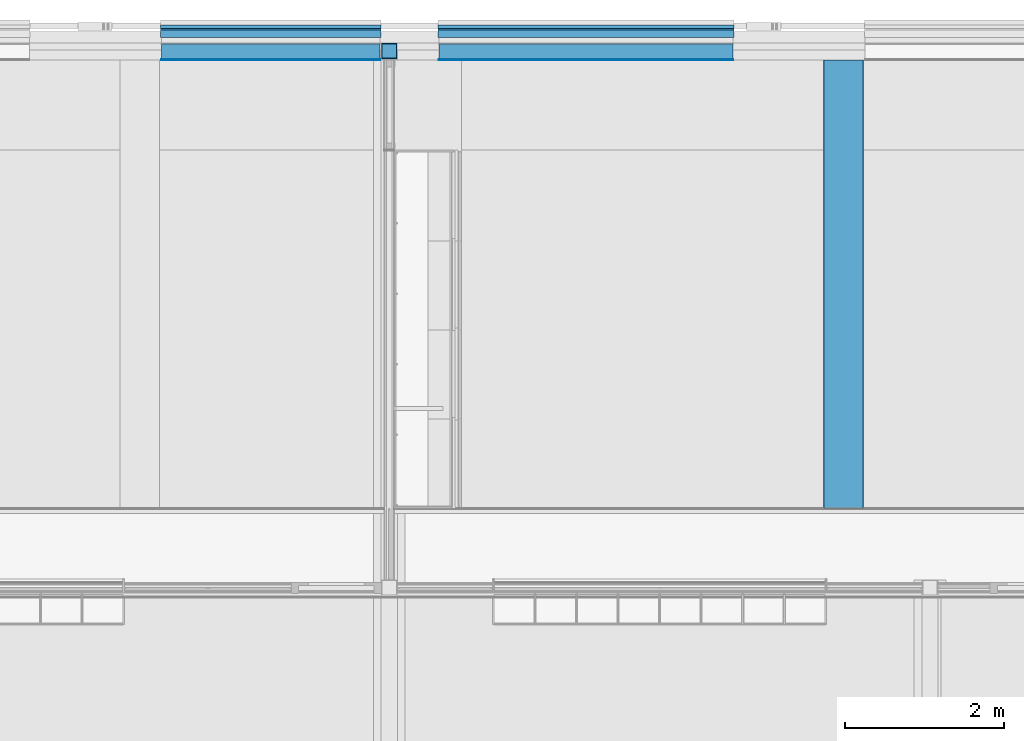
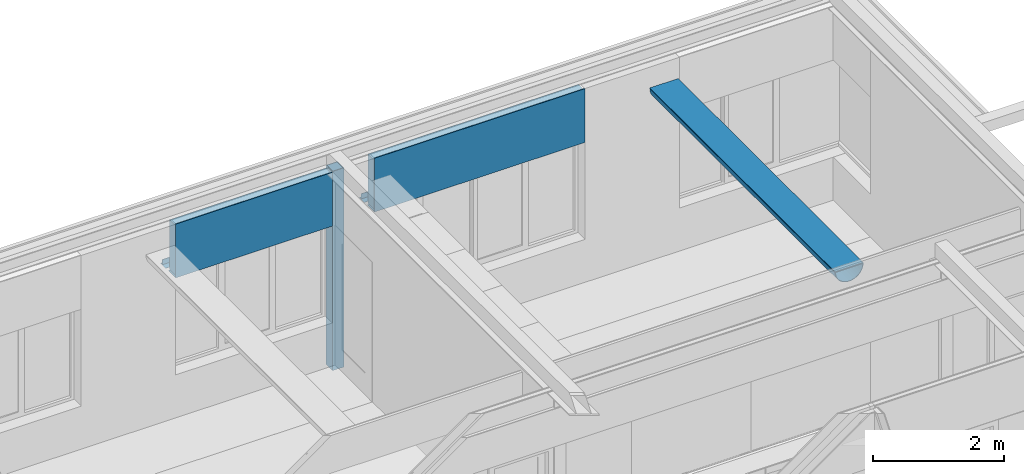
# One storey, part 94 of 137: 14 building element parts, 6 elements without a shape of their own.
"""IFC2X3 building model written with IfcOpenShell, lengths in millimetres."""

import ifcopenshell
import ifcopenshell.guid

model = None  # the IFC model being written
_history = None  # IfcOwnerHistory: only IFC2X3 demands one
_inside = {}  # id of a spatial element -> (the spatial element, [elements in it])
_under = {}  # id of a project, library or spatial element -> (it, [spatial elements below it])
_declared = {}  # id of a project -> (the project, [libraries it declares])
_typed = {}  # id of a type object -> (the type object, [elements of that type])
_made_of = {}  # id of a material, layer set ... -> (it, [elements and type objects made of it])


def new_model(schema):
    """Start an empty IFC model of exactly this schema.

    Asked for "IFC4X3", IfcOpenShell would pick the latest addendum, in which some entities
    have other attributes; the version numbers below select the first issue.
    IFC2X3 requires an IfcOwnerHistory on every rooted entity: one is made here for all.
    """
    global model, _history
    if schema == "IFC4X3":
        model = ifcopenshell.file(schema_version=(4, 3, 0, 0))
    else:
        model = ifcopenshell.file(schema=schema)
    _inside.clear()
    _under.clear()
    _declared.clear()
    _typed.clear()
    _made_of.clear()
    _history = None
    if model.schema == "IFC2X3":
        org = make("IfcOrganization", Name="unknown")
        user = make(
            "IfcPersonAndOrganization",
            ThePerson=make("IfcPerson", FamilyName="unknown"),
            TheOrganization=org,
        )
        app = make(
            "IfcApplication",
            ApplicationDeveloper=org,
            Version="unknown",
            ApplicationFullName="unknown",
            ApplicationIdentifier="unknown",
        )
        _history = make(
            "IfcOwnerHistory",
            OwningUser=user,
            OwningApplication=app,
            ChangeAction="ADDED",
            CreationDate=0,
        )
    return model


def make(cls, **values):
    """One entity of the class cls with the attributes given. An attribute that is None is left unset."""
    return model.create_entity(
        cls, **{name: value for name, value in values.items() if value is not None}
    )


def entity(cls, *values):
    """Any entity or typed value of the class cls, its attributes in the order of the schema. None: left unset."""
    e = model.create_entity(cls)
    for i, value in enumerate(values):
        if value is not None:
            e[i] = value
    return e


def rooted(cls, **values):
    """An entity with a GlobalId (a new one), such as an element, a storey or a relation."""
    return make(cls, GlobalId=ifcopenshell.guid.new(), OwnerHistory=_history, **values)


def si_unit(unit_type, name, prefix=None):
    """IfcSIUnit, for example si_unit("LENGTHUNIT", "METRE", prefix="MILLI")."""
    return make("IfcSIUnit", UnitType=unit_type, Prefix=prefix, Name=name)


def converted_unit(unit_type, name, factor, base, dimensions=None, offset=None):
    """IfcConversionBasedUnit, such as the inch: factor (a typed value) times the base unit."""
    return make(
        "IfcConversionBasedUnit"
        if offset is None
        else "IfcConversionBasedUnitWithOffset",
        ConversionOffset=offset,
        Dimensions=None
        if dimensions is None
        else entity("IfcDimensionalExponents", *dimensions),
        UnitType=unit_type,
        Name=name,
        ConversionFactor=make(
            "IfcMeasureWithUnit", ValueComponent=factor, UnitComponent=base
        ),
    )


def derived_unit(unit_type, elements):
    """IfcDerivedUnit: a product of units, each with its exponent."""
    return make(
        "IfcDerivedUnit",
        Elements=[
            make("IfcDerivedUnitElement", Unit=unit, Exponent=power)
            for unit, power in elements
        ],
        UnitType=unit_type,
    )


def money_unit(currency):
    """IfcMonetaryUnit."""
    return make("IfcMonetaryUnit", Currency=currency)


def assignment(units):
    """IfcUnitAssignment: the units of a project."""
    return None if units is None else make("IfcUnitAssignment", Units=units)


def point(xyz):
    """IfcCartesianPoint."""
    return None if xyz is None else make("IfcCartesianPoint", Coordinates=xyz)


def direction(xyz):
    """IfcDirection."""
    return None if xyz is None else make("IfcDirection", DirectionRatios=xyz)


def frame(location, z_axis=None, x_axis=None):
    """IfcAxis2Placement3D, a coordinate frame: its origin and axes. An axis left out is left unset."""
    return make(
        "IfcAxis2Placement3D",
        Location=point(location),
        Axis=direction(z_axis),
        RefDirection=direction(x_axis),
    )


def origin_with_axes():
    """The frame at (0, 0, 0) with the z axis (0, 0, 1) and the x axis (1, 0, 0) written out."""
    return frame((0.0, 0.0, 0.0), z_axis=(0.0, 0.0, 1.0), x_axis=(1.0, 0.0, 0.0))


def place(relative_to, where):
    """IfcLocalPlacement: puts the frame where relative to a parent placement (None: the world)."""
    return make(
        "IfcLocalPlacement", PlacementRelTo=relative_to, RelativePlacement=where
    )


def context(
    kind, dimensions, precision=None, world=None, true_north=None, identifier=None
):
    """IfcGeometricRepresentationContext, for example the 3D "Model" context."""
    return make(
        "IfcGeometricRepresentationContext",
        ContextIdentifier=identifier,
        ContextType=kind,
        CoordinateSpaceDimension=dimensions,
        Precision=precision,
        WorldCoordinateSystem=world,
        TrueNorth=true_north,
    )


def subcontext(parent, identifier, kind, view, scale=None):
    """IfcGeometricRepresentationSubContext, for example "Body" below "Model"."""
    return make(
        "IfcGeometricRepresentationSubContext",
        ContextIdentifier=identifier,
        ContextType=kind,
        ParentContext=parent,
        TargetScale=scale,
        TargetView=view,
    )


def project(units=None, contexts=None):
    """IfcProject with its units and contexts."""
    return rooted(
        "IfcProject",
        Name="project",
        RepresentationContexts=contexts,
        UnitsInContext=assignment(units),
    )


def spatial(cls, under=None, at=None, **own):
    """A site, building, storey or space (cls), placed at a placement, below another one or the project."""
    s = rooted(cls, ObjectPlacement=at, **own)
    if under is not None:
        _under.setdefault(under.id(), (under, []))[1].append(s)
    return s


def faces_of(points, faces, orient=None, outer=None):
    """IfcFace entities. A face is a list of loops; a loop is a list of indices into points, from 0.

    orient and outer hold one flag for each loop. By default every Orientation is true, the
    first loop of a face is its IfcFaceOuterBound and the others are IfcFaceBound.
    """
    made = []
    for i, loops in enumerate(faces):
        bounds = []
        for j, loop in enumerate(loops):
            is_outer = j == 0 if outer is None else outer[i][j]
            bounds.append(
                make(
                    "IfcFaceOuterBound" if is_outer else "IfcFaceBound",
                    Bound=make("IfcPolyLoop", Polygon=[points[k] for k in loop]),
                    Orientation=True if orient is None else orient[i][j],
                )
            )
        made.append(make("IfcFace", Bounds=bounds))
    return made


def faceted_brep(points, faces, orient=None, outer=None, voids=None):
    """IfcFacetedBrep: a solid bounded by flat faces; with voids (closed shells), ...WithVoids."""
    shared = [point(p) for p in points]
    hull = make("IfcClosedShell", CfsFaces=faces_of(shared, faces, orient, outer))
    if voids is None:
        return make("IfcFacetedBrep", Outer=hull)
    return make(
        "IfcFacetedBrepWithVoids",
        Outer=hull,
        Voids=[
            make(cls, CfsFaces=faces_of(shared, fs, o, b)) for cls, fs, o, b in voids
        ],
    )


def shape(context_of_items, identifier, shape_type, items):
    """IfcShapeRepresentation: the items that make up one representation, for example the "Body"."""
    return make(
        "IfcShapeRepresentation",
        ContextOfItems=context_of_items,
        RepresentationIdentifier=identifier,
        RepresentationType=shape_type,
        Items=items,
    )


def material(Name=None, Category=None):
    """IfcMaterial."""
    return make("IfcMaterial", Name=Name, Category=Category)


def made_of(thing, what):
    """Note that an element or type object is made of a material, layer set ...; save() writes the relation."""
    if what is not None:
        _made_of.setdefault(what.id(), (what, []))[1].append(thing)
    return thing


def type_object(cls, material=None, **own):
    """A type object (cls), such as IfcWallType, which elements share."""
    return made_of(rooted(cls, **own), material)


def element(
    cls,
    number,
    at=None,
    inside=None,
    cuts=None,
    type_object=None,
    material=None,
    context=None,
    identifier="Body",
    shape_type=None,
    held_by="IfcProductDefinitionShape",
    body=None,
    shapes=None,
    **own,
):
    """One element of the class cls, such as IfcWall. Its Tag is "e" and its number.

    at: its placement. inside: the storey or other place that contains it. cuts: it is an
    opening in that element (IfcRelVoidsElement). A single representation is given by context,
    identifier, shape_type and body (its items); several are given by shapes. held_by: the class
    of the entity that holds the representations. save() writes the other relations.
    """
    e = rooted(cls, Tag="e%d" % number, ObjectPlacement=at, **own)
    if body is not None:
        shapes = [shape(context, identifier, shape_type, body)]
    if shapes is not None:
        e.Representation = make(held_by, Representations=shapes)
    if inside is not None:
        _inside.setdefault(inside.id(), (inside, []))[1].append(e)
    if cuts is not None:
        rooted(
            "IfcRelVoidsElement", RelatingBuildingElement=cuts, RelatedOpeningElement=e
        )
    if type_object is not None:
        _typed.setdefault(type_object.id(), (type_object, []))[1].append(e)
    return made_of(e, material)


def aggregate(whole, parts):
    """IfcRelAggregates: a whole, such as a stair, and the parts it consists of."""
    return rooted("IfcRelAggregates", RelatingObject=whole, RelatedObjects=parts)


def save(model, path):
    """Write the relations noted so far, then the file.

    IfcRelAggregates (storeys below a building ...), IfcRelContainedInSpatialStructure (elements
    in a storey), IfcRelDefinesByType, IfcRelAssociatesMaterial and IfcRelDeclares: one each for
    every whole, place, type object, material and project.
    """
    for whole, parts in _under.values():
        aggregate(whole, parts)
    for where, things in _inside.values():
        rooted(
            "IfcRelContainedInSpatialStructure",
            RelatedElements=things,
            RelatingStructure=where,
        )
    for kind, things in _typed.values():
        rooted("IfcRelDefinesByType", RelatedObjects=things, RelatingType=kind)
    for what, things in _made_of.values():
        rooted("IfcRelAssociatesMaterial", RelatedObjects=things, RelatingMaterial=what)
    for by, libraries in _declared.values():
        rooted("IfcRelDeclares", RelatingContext=by, RelatedDefinitions=libraries)
    model.write(path)


model = new_model("IFC2X3")

# Units and contexts
model_context = context("Model", 3, precision=0.01, world=origin_with_axes(), true_north=direction((0.0, 1.0)))
body_context = subcontext(model_context, "Body", "Model", "MODEL_VIEW")
ifc_project = project(units=[si_unit("LENGTHUNIT", "METRE", prefix="MILLI"), si_unit("AREAUNIT", "SQUARE_METRE"), si_unit("VOLUMEUNIT", "CUBIC_METRE"), converted_unit("PLANEANGLEUNIT", "DEGREE", entity("IfcPlaneAngleMeasure", 0.0174532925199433), si_unit("PLANEANGLEUNIT", "RADIAN"), dimensions=[0, 0, 0, 0, 0, 0, 0]), money_unit("EUR"), converted_unit("TIMEUNIT", "Year", entity("IfcTimeMeasure", 31556926.0), si_unit("TIMEUNIT", "SECOND"), dimensions=[0, 0, 1, 0, 0, 0, 0]), si_unit("MASSUNIT", "GRAM", prefix="KILO"), si_unit("THERMODYNAMICTEMPERATUREUNIT", "DEGREE_CELSIUS"), si_unit("LUMINOUSINTENSITYUNIT", "LUMEN"), si_unit("ENERGYUNIT", "JOULE", prefix="MEGA"), derived_unit("THERMALCONDUCTANCEUNIT", [(si_unit("POWERUNIT", "WATT"), 1), (si_unit("LENGTHUNIT", "METRE"), -1), (si_unit("THERMODYNAMICTEMPERATUREUNIT", "KELVIN"), -1)]), derived_unit("SPECIFICHEATCAPACITYUNIT", [(si_unit("ENERGYUNIT", "JOULE"), 1), (si_unit("MASSUNIT", "GRAM", prefix="KILO"), -1), (si_unit("THERMODYNAMICTEMPERATUREUNIT", "KELVIN"), -1)]), derived_unit("MASSDENSITYUNIT", [(si_unit("MASSUNIT", "GRAM", prefix="KILO"), 1), (si_unit("VOLUMEUNIT", "CUBIC_METRE"), -1)])], contexts=[model_context])

# Site, building, storey
site_placement = place(None, origin_with_axes())
site = spatial("IfcSite", under=ifc_project, at=site_placement, Name="Site", CompositionType="ELEMENT")
building_placement = place(site_placement, origin_with_axes())
building = spatial("IfcBuilding", under=site, at=building_placement, Name="Naam gebouw", CompositionType="ELEMENT")
storey_placement = place(building_placement, frame((0.0, 0.0, 3960.0), z_axis=(0.0, 0.0, 1.0), x_axis=(1.0, 0.0, 0.0)))
storey = spatial("IfcBuildingStorey", under=building, at=storey_placement, Name="1e verdieping", CompositionType="ELEMENT", Elevation=3960.0)

# Column, building element parts
column_type = type_object("IfcColumnType", Name="200X200X10 200 x 200", PredefinedType="COLUMN")
column_placement = place(storey_placement, frame((17699.99942456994, 29075.0, -100.0000000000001), z_axis=(0.0, 0.0, 1.0), x_axis=(1.0, 0.0, 0.0)))
column = element("IfcColumn", 1, at=column_placement, inside=storey, type_object=column_type, Name="28_Kolom-x", ObjectType="COLUMN")
ifc_material_1 = material(Name="Metaal - Staal C")
building_element_part_1_placement = place(column_placement, origin_with_axes())
building_element_part_1 = element("IfcBuildingElementPart", 2, at=building_element_part_1_placement, material=ifc_material_1, Name="Metaal - Staal C", context=body_context, shape_type="Brep", body=[
    faceted_brep([(-100.0000000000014, -100.0000000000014, 0.0), (100.0000000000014, -100.0000000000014, 0.0), (100.0000000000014, -100.0000000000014, 3699.999999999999), (-100.0000000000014, -100.0000000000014, 3699.999999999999), (-100.0000000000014, 100.0000000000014, 0.0), (100.0000000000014, 100.0000000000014, 0.0), (-89.99999999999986, -89.99999999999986, 0.0), (89.99999999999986, -89.99999999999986, 0.0), (89.99999999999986, 89.99999999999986, 0.0), (-89.99999999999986, 89.99999999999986, 0.0), (100.0000000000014, 100.0000000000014, 3699.999999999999), (-100.0000000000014, 100.0000000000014, 3699.999999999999), (-89.99999999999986, -89.99999999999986, 3699.999999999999), (-89.99999999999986, 89.99999999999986, 3699.999999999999), (89.99999999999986, 89.99999999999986, 3699.999999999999), (89.99999999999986, -89.99999999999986, 3699.999999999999)], [[[0, 1, 2, 3]], [[0, 4, 5, 1], [6, 7, 8, 9]], [[1, 5, 10, 2]], [[3, 2, 10, 11], [12, 13, 14, 15]], [[4, 0, 3, 11]], [[5, 4, 11, 10]], [[7, 6, 12, 15]], [[8, 7, 15, 14]], [[9, 8, 14, 13]], [[6, 9, 13, 12]]]),
])
ifc_material_2 = material(Name="Beton gewapend C")
building_element_part_2_placement = place(column_placement, origin_with_axes())
building_element_part_2 = element("IfcBuildingElementPart", 3, at=building_element_part_2_placement, material=ifc_material_2, Name="Beton gewapend C", context=body_context, shape_type="Brep", body=[
    faceted_brep([(-89.99999999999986, 89.99999999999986, 3675.000029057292), (89.99999999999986, 89.99999999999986, 3675.000029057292), (89.99999999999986, 89.99999999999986, 0.0), (-89.99999999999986, 89.99999999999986, 0.0), (89.99999999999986, -89.99999999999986, 3675.000029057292), (-89.99999999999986, -89.99999999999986, 3675.000029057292), (89.99999999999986, -89.99999999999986, 0.0), (-89.99999999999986, -89.99999999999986, 0.0)], [[[0, 1, 2, 3]], [[4, 1, 0, 5]], [[1, 4, 6, 2]], [[2, 6, 7, 3]], [[5, 0, 3, 7]], [[4, 5, 7, 6]]]),
    faceted_brep([(89.99999999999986, -89.99999999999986, 3695.000029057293), (89.99999999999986, 89.99999999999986, 3695.000029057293), (89.99999999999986, 89.99999999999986, 3699.999999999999), (89.99999999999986, -89.99999999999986, 3699.999999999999), (-89.99999999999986, 89.99999999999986, 3695.000029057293), (-89.99999999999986, -89.99999999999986, 3695.000029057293), (-89.99999999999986, 89.99999999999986, 3699.999999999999), (-89.99999999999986, -89.99999999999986, 3699.999999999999)], [[[0, 1, 2, 3]], [[4, 1, 0, 5]], [[1, 4, 6, 2]], [[2, 6, 7, 3]], [[5, 0, 3, 7]], [[4, 5, 7, 6]]]),
])
aggregate(column, [building_element_part_1, building_element_part_2])

# Beam, building element parts
beam_type_1 = type_object("IfcBeamType", Name="41 Latei/geveldrager 158 x 112", PredefinedType="BEAM")
beam_1_placement = place(storey_placement, frame((18314.99942456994, 29355.0, 2610.0), z_axis=(0.0, 0.0, 1.0), x_axis=(0.0, -1.0, 0.0)))
beam_1 = element("IfcBeam", 4, at=beam_1_placement, inside=storey, type_object=beam_type_1, Name="_Regenwaterafvoer-x", ObjectType="BEAM")
building_element_part_3_placement = place(beam_1_placement, origin_with_axes())
building_element_part_3 = element("IfcBuildingElementPart", 5, at=building_element_part_3_placement, material=ifc_material_1, Name="Metaal - Staal C", context=body_context, shape_type="Brep", body=[
    faceted_brep([(-50.00000000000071, 3720.000000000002, 6.55651533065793e-07), (-50.00000000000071, 3720.000000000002, -3.000000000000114), (-50.00000000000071, 0.0, -3.000000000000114), (-50.00000000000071, 0.0, 6.55651533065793e-07), (-5.9603877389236e-08, 3720.000000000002, 6.55651533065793e-07), (-5.9603877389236e-08, 3720.000000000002, 99.3417707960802), (16.54654975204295, 3720.000000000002, 108.8949262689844), (18.04655007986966, 3720.000000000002, 106.2968498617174), (3.000000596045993, 3720.000000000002, 96.99999988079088), (3.000000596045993, 3720.000000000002, 6.55651533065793e-07), (3.000000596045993, 3720.000000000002, -3.000000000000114), (3.000000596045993, 0.0, -3.000000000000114), (3.000000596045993, 0.0, 6.55651533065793e-07), (3.000000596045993, 0.0, 96.99999988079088), (18.04655007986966, 0.0, 106.2968498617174), (16.54654975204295, 0.0, 108.8949262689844), (-5.9603877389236e-08, 0.0, 99.3417707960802), (-5.9603877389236e-08, 0.0, 6.55651533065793e-07)], [[[0, 1, 2, 3]], [[0, 4, 5, 6, 7, 8, 9, 10, 1]], [[1, 10, 11, 2]], [[3, 2, 11, 12, 13, 14, 15, 16, 17]], [[4, 0, 3, 17]], [[5, 4, 17, 16]], [[6, 5, 16, 15]], [[7, 6, 15, 14]], [[8, 7, 14, 13]], [[9, 8, 13, 12]], [[10, 9, 12, 11]]]),
])
building_element_part_4_placement = place(beam_1_placement, origin_with_axes())
building_element_part_4 = element("IfcBuildingElementPart", 6, at=building_element_part_4_placement, material=ifc_material_1, Name="Metaal - Staal C", context=body_context, shape_type="Brep", body=[
    faceted_brep([(3.000000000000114, 3720.000000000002, -3.000000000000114), (108.0000000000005, 3720.000000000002, -3.000000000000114), (108.0000000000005, 0.0, -3.000000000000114), (3.000000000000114, 0.0, -3.000000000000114), (3.000000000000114, 3720.000000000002, 0.0), (108.0000000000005, 3720.000000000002, 0.0), (108.0000000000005, 0.0, 0.0), (3.000000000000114, 0.0, 0.0)], [[[0, 1, 2, 3]], [[0, 4, 5, 1]], [[1, 5, 6, 2]], [[3, 2, 6, 7]], [[4, 0, 3, 7]], [[5, 4, 7, 6]]]),
])
aggregate(beam_1, [building_element_part_3, building_element_part_4])

beam_2_placement = place(storey_placement, frame((14824.99942456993, 29355.0, 2610.0), z_axis=(0.0, 0.0, 1.0), x_axis=(0.0, -1.0, 0.0)))
beam_2 = element("IfcBeam", 7, at=beam_2_placement, inside=storey, type_object=beam_type_1, Name="_Regenwaterafvoer-x", ObjectType="BEAM")
building_element_part_5_placement = place(beam_2_placement, origin_with_axes())
building_element_part_5 = element("IfcBuildingElementPart", 8, at=building_element_part_5_placement, material=ifc_material_1, Name="Metaal - Staal C", context=body_context, shape_type="Brep", body=[
    faceted_brep([(-50.00000000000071, 2770.0, 6.55651533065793e-07), (-50.00000000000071, 2770.0, -3.000000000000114), (-50.00000000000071, 0.0, -3.000000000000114), (-50.00000000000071, 0.0, 6.55651533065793e-07), (-5.9603877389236e-08, 2770.0, 6.55651533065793e-07), (-5.9603877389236e-08, 2770.0, 99.3417707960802), (16.54654975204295, 2770.0, 108.8949262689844), (18.04655007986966, 2770.0, 106.2968498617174), (3.000000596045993, 2770.0, 96.99999988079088), (3.000000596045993, 2770.0, 6.55651533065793e-07), (3.000000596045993, 2770.0, -3.000000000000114), (3.000000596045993, 0.0, -3.000000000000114), (3.000000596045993, 0.0, 6.55651533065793e-07), (3.000000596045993, 0.0, 96.99999988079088), (18.04655007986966, 0.0, 106.2968498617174), (16.54654975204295, 0.0, 108.8949262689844), (-5.9603877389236e-08, 0.0, 99.3417707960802), (-5.9603877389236e-08, 0.0, 6.55651533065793e-07)], [[[0, 1, 2, 3]], [[0, 4, 5, 6, 7, 8, 9, 10, 1]], [[1, 10, 11, 2]], [[3, 2, 11, 12, 13, 14, 15, 16, 17]], [[4, 0, 3, 17]], [[5, 4, 17, 16]], [[6, 5, 16, 15]], [[7, 6, 15, 14]], [[8, 7, 14, 13]], [[9, 8, 13, 12]], [[10, 9, 12, 11]]]),
])
building_element_part_6_placement = place(beam_2_placement, origin_with_axes())
building_element_part_6 = element("IfcBuildingElementPart", 9, at=building_element_part_6_placement, material=ifc_material_1, Name="Metaal - Staal C", context=body_context, shape_type="Brep", body=[
    faceted_brep([(3.000000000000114, 2770.0, -3.000000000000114), (108.0000000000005, 2770.0, -3.000000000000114), (108.0000000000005, 0.0, -3.000000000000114), (3.000000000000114, 0.0, -3.000000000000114), (3.000000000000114, 2770.0, 0.0), (108.0000000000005, 2770.0, 0.0), (108.0000000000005, 0.0, 0.0), (3.000000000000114, 0.0, 0.0)], [[[0, 1, 2, 3]], [[0, 4, 5, 1]], [[1, 5, 6, 2]], [[3, 2, 6, 7]], [[4, 0, 3, 7]], [[5, 4, 7, 6]]]),
])
aggregate(beam_2, [building_element_part_5, building_element_part_6])

beam_type_2 = type_object("IfcBeamType", Name="31 HSB boven kozijnen 214 x 1000", PredefinedType="BEAM")
beam_3_placement = place(storey_placement, frame((14834.99942456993, 28961.0, 2600.000000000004), z_axis=(0.0, 0.0, 1.0), x_axis=(0.0, -1.0, 0.0)))
beam_3 = element("IfcBeam", 10, at=beam_3_placement, inside=storey, type_object=beam_type_2, Name="28_Balk-x", ObjectType="BEAM")
ifc_material_3 = material(Name="Gipsplaat")
building_element_part_7_placement = place(beam_3_placement, origin_with_axes())
building_element_part_7 = element("IfcBuildingElementPart", 11, at=building_element_part_7_placement, material=ifc_material_3, Name="Gipsplaat", context=body_context, shape_type="Brep", body=[
    faceted_brep([(-11.99999661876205, 2749.999999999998, 0.0), (9.341707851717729e-06, 2749.999999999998, 0.0), (9.341711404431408e-06, 0.0, 0.0), (-11.99999661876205, 0.0, 0.0), (-11.99999661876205, 2749.999999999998, 999.9999999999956), (9.341707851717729e-06, 2749.999999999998, 999.9999999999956), (9.341707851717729e-06, 0.0, 999.9999999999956), (-11.99999661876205, 0.0, 999.9999999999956)], [[[0, 1, 2, 3]], [[0, 4, 5, 1]], [[1, 5, 6, 2]], [[3, 2, 6, 7]], [[4, 0, 3, 7]], [[5, 4, 7, 6]]]),
])
ifc_material_4 = material(Name="ALG - ISOLATIE")
building_element_part_8_placement = place(beam_3_placement, origin_with_axes())
building_element_part_8 = element("IfcBuildingElementPart", 12, at=building_element_part_8_placement, material=ifc_material_4, Name="ALG - ISOLATIE", context=body_context, shape_type="Brep", body=[
    faceted_brep([(-12.00000000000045, 2749.999999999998, 49.99999999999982), (-12.00000000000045, 2749.999999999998, 961.9999999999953), (-12.00000000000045, 0.0, 961.9999999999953), (-12.00000000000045, 0.0, 49.99999999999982), (-196.0000000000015, 2749.999999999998, 49.99999999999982), (-196.0000000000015, 2749.999999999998, 961.9999999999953), (-196.0000000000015, 0.0, 961.9999999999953), (-195.999999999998, 0.0, 49.99999999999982)], [[[0, 1, 2, 3]], [[0, 4, 5, 1]], [[1, 5, 6, 2]], [[3, 2, 6, 7]], [[4, 0, 3, 7]], [[5, 4, 7, 6]]]),
])

beam_4_placement = place(storey_placement, frame((18324.99942456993, 28961.0, 2600.000000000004), z_axis=(0.0, 0.0, 1.0), x_axis=(0.0, -1.0, 0.0)))
beam_4 = element("IfcBeam", 13, at=beam_4_placement, inside=storey, type_object=beam_type_2, Name="28_Balk-x", ObjectType="BEAM")
building_element_part_9_placement = place(beam_4_placement, origin_with_axes())
building_element_part_9 = element("IfcBuildingElementPart", 14, at=building_element_part_9_placement, material=ifc_material_3, Name="Gipsplaat", context=body_context, shape_type="Brep", body=[
    faceted_brep([(-11.99999661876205, 3700.000000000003, 0.0), (9.341707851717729e-06, 3700.000000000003, 0.0), (9.341711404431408e-06, 0.0, 0.0), (-11.99999661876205, 0.0, 0.0), (-11.99999661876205, 3700.000000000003, 999.9999999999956), (9.341707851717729e-06, 3700.000000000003, 999.9999999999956), (9.341707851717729e-06, 0.0, 999.9999999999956), (-11.99999661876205, 0.0, 999.9999999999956)], [[[0, 1, 2, 3]], [[0, 4, 5, 1]], [[1, 5, 6, 2]], [[3, 2, 6, 7]], [[4, 0, 3, 7]], [[5, 4, 7, 6]]]),
])
building_element_part_10_placement = place(beam_4_placement, origin_with_axes())
building_element_part_10 = element("IfcBuildingElementPart", 15, at=building_element_part_10_placement, material=ifc_material_3, Name="Gipsplaat", context=body_context, shape_type="Brep", body=[
    faceted_brep([(-214.0000025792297, 3700.000000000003, 12.00000596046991), (-214.0000025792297, 3700.000000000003, 0.0), (-214.0000025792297, 0.0, 0.0), (-214.0000025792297, 0.0, 12.00000596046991), (-11.99999661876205, 3700.000000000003, 12.00000596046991), (-11.99999661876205, 3700.000000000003, 0.0), (-11.99999661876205, 0.0, 0.0), (-11.99999661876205, 0.0, 12.00000596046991)], [[[0, 1, 2, 3]], [[0, 4, 5, 1]], [[1, 5, 6, 2]], [[3, 2, 6, 7]], [[4, 0, 3, 7]], [[5, 4, 7, 6]]]),
])
building_element_part_11_placement = place(beam_4_placement, origin_with_axes())
building_element_part_11 = element("IfcBuildingElementPart", 16, at=building_element_part_11_placement, material=ifc_material_4, Name="ALG - ISOLATIE", context=body_context, shape_type="Brep", body=[
    faceted_brep([(-12.00000000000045, 3700.000000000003, 49.99999999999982), (-12.00000000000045, 3700.000000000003, 961.9999999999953), (-12.00000000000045, 0.0, 961.9999999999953), (-12.00000000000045, 0.0, 49.99999999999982), (-196.0000000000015, 3700.000000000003, 49.99999999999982), (-196.0000000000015, 3700.000000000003, 961.9999999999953), (-196.0000000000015, 0.0, 961.9999999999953), (-195.999999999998, 0.0, 49.99999999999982)], [[[0, 1, 2, 3]], [[0, 4, 5, 1]], [[1, 5, 6, 2]], [[3, 2, 6, 7]], [[4, 0, 3, 7]], [[5, 4, 7, 6]]]),
])
aggregate(beam_4, [building_element_part_9, building_element_part_10, building_element_part_11])

# Building element part
building_element_part_12_placement = place(beam_3_placement, origin_with_axes())
building_element_part_12 = element("IfcBuildingElementPart", 17, at=building_element_part_12_placement, material=ifc_material_3, Name="Gipsplaat", context=body_context, shape_type="Brep", body=[
    faceted_brep([(-214.0000025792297, 2749.999999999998, 12.00000596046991), (-214.0000025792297, 2749.999999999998, 0.0), (-214.0000025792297, 0.0, 0.0), (-214.0000025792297, 0.0, 12.00000596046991), (-11.99999661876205, 2749.999999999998, 12.00000596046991), (-11.99999661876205, 2749.999999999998, 0.0), (-11.99999661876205, 0.0, 0.0), (-11.99999661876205, 0.0, 12.00000596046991)], [[[0, 1, 2, 3]], [[0, 4, 5, 1]], [[1, 5, 6, 2]], [[3, 2, 6, 7]], [[4, 0, 3, 7]], [[5, 4, 7, 6]]]),
])

aggregate(beam_3, [building_element_part_7, building_element_part_8, building_element_part_12])

# Beam, building element parts
beam_type_3 = type_object("IfcBeamType", Name="Luchtzakken 500mm 500 x 265", PredefinedType="BEAM")
beam_5_placement = place(storey_placement, frame((23412.49942456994, 28961.0, 3200.0), z_axis=(0.0, 0.0, 1.0), x_axis=(-1.0, 0.0, 0.0)))
beam_5 = element("IfcBeam", 18, at=beam_5_placement, inside=storey, type_object=beam_type_3, Name="_Regenwaterafvoer-x", ObjectType="BEAM")
ifc_material_5 = material(Name="ALG - ALGEMEEN")
building_element_part_13_placement = place(beam_5_placement, origin_with_axes())
building_element_part_13 = element("IfcBuildingElementPart", 19, at=building_element_part_13_placement, material=ifc_material_5, Name="ALG - ALGEMEEN", context=body_context, shape_type="Brep", body=[
    faceted_brep([(-250.0, 5636.000152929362, 0.0), (-246.2019382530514, 5636.000152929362, -43.41204441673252), (-246.2019382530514, 0.0, -43.41204441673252), (-250.0, 0.0, 0.0), (-240.000000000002, 5636.000152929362, 0.0), (-236.3538607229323, 5636.000152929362, -41.67556264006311), (-225.5262289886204, 5636.000152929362, -82.08483439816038), (-207.8460969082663, 5636.000152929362, -120.0000000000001), (-183.8506663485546, 5636.000152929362, -154.2690263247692), (-154.2690263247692, 5636.000152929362, -183.8506663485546), (-120.000000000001, 5636.000152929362, -207.8460969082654), (-82.0848343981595, 5636.000152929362, -225.5262289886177), (-41.67556264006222, 5636.000152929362, -236.3538607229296), (0.0, 5636.000152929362, -240.0000000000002), (41.67556264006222, 5636.000152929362, -236.3538607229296), (82.0848343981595, 5636.000152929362, -225.5262289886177), (120.000000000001, 5636.000152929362, -207.8460969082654), (154.2690263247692, 5636.000152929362, -183.8506663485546), (183.8506663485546, 5636.000152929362, -154.2690263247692), (207.8460969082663, 5636.000152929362, -120.0000000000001), (225.5262289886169, 5636.000152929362, -82.08483439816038), (236.3538607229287, 5636.000152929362, -41.67556264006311), (239.9999999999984, 5636.000152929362, 0.0), (250.0, 5636.000152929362, 0.0), (246.2019382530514, 5636.000152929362, -43.41204441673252), (234.9231551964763, 5636.000152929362, -85.50503583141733), (216.5063509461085, 5636.000152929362, -125.0), (191.5111107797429, 5636.000152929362, -160.6969024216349), (160.696902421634, 5636.000152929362, -191.5111107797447), (125.0, 5636.000152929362, -216.5063509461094), (85.50503583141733, 5636.000152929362, -234.9231551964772), (43.41204441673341, 5636.000152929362, -246.2019382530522), (0.0, 5636.000152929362, -250.0), (-43.41204441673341, 5636.000152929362, -246.2019382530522), (-85.50503583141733, 5636.000152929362, -234.9231551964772), (-125.0, 5636.000152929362, -216.5063509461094), (-160.696902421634, 5636.000152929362, -191.5111107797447), (-191.5111107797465, 5636.000152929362, -160.6969024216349), (-216.506350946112, 5636.000152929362, -125.0), (-234.9231551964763, 5636.000152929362, -85.50503583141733), (-234.9231551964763, 0.0, -85.50503583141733), (-216.5063509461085, 0.0, -125.0), (-191.5111107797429, 0.0, -160.6969024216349), (-160.696902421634, 0.0, -191.5111107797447), (-125.0, 0.0, -216.5063509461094), (-85.50503583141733, 0.0, -234.9231551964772), (-43.41204441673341, 0.0, -246.2019382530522), (0.0, 0.0, -250.0), (43.41204441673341, 0.0, -246.2019382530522), (85.50503583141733, 0.0, -234.9231551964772), (125.0, 0.0, -216.5063509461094), (160.696902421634, 0.0, -191.5111107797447), (191.5111107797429, 0.0, -160.6969024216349), (216.5063509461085, 0.0, -125.0), (234.9231551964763, 0.0, -85.50503583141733), (246.2019382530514, 0.0, -43.41204441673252), (250.0, 0.0, 0.0), (239.9999999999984, 0.0, 0.0), (236.3538607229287, 0.0, -41.67556264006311), (225.5262289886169, 0.0, -82.08483439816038), (207.8460969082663, 0.0, -120.0000000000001), (183.8506663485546, 0.0, -154.2690263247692), (154.2690263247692, 0.0, -183.8506663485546), (120.000000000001, 0.0, -207.8460969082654), (82.0848343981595, 0.0, -225.5262289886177), (41.67556264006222, 0.0, -236.3538607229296), (0.0, 0.0, -240.0000000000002), (-41.67556264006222, 0.0, -236.3538607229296), (-82.0848343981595, 0.0, -225.5262289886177), (-120.000000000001, 0.0, -207.8460969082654), (-154.2690263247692, 0.0, -183.8506663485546), (-183.8506663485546, 0.0, -154.2690263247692), (-207.8460969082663, 0.0, -120.0000000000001), (-225.5262289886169, 0.0, -82.08483439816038), (-236.3538607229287, 0.0, -41.67556264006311), (-239.9999999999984, 0.0, 0.0)], [[[0, 1, 2, 3]], [[0, 4, 5, 6, 7, 8, 9, 10, 11, 12, 13, 14, 15, 16, 17, 18, 19, 20, 21, 22, 23, 24, 25, 26, 27, 28, 29, 30, 31, 32, 33, 34, 35, 36, 37, 38, 39, 1]], [[1, 39, 40, 2]], [[3, 2, 40, 41, 42, 43, 44, 45, 46, 47, 48, 49, 50, 51, 52, 53, 54, 55, 56, 57, 58, 59, 60, 61, 62, 63, 64, 65, 66, 67, 68, 69, 70, 71, 72, 73, 74, 75]], [[4, 0, 3, 75]], [[5, 4, 75, 74]], [[6, 5, 74, 73]], [[7, 6, 73, 72]], [[8, 7, 72, 71]], [[9, 8, 71, 70]], [[10, 9, 70, 69]], [[11, 10, 69, 68]], [[12, 11, 68, 67]], [[13, 12, 67, 66]], [[14, 13, 66, 65]], [[15, 14, 65, 64]], [[16, 15, 64, 63]], [[17, 16, 63, 62]], [[18, 17, 62, 61]], [[19, 18, 61, 60]], [[20, 19, 60, 59]], [[21, 20, 59, 58]], [[22, 21, 58, 57]], [[23, 22, 57, 56]], [[24, 23, 56, 55]], [[25, 24, 55, 54]], [[26, 25, 54, 53]], [[27, 26, 53, 52]], [[28, 27, 52, 51]], [[29, 28, 51, 50]], [[30, 29, 50, 49]], [[31, 30, 49, 48]], [[32, 31, 48, 47]], [[33, 32, 47, 46]], [[34, 33, 46, 45]], [[35, 34, 45, 44]], [[36, 35, 44, 43]], [[37, 36, 43, 42]], [[38, 37, 42, 41]], [[39, 38, 41, 40]]]),
])
building_element_part_14_placement = place(beam_5_placement, origin_with_axes())
building_element_part_14 = element("IfcBuildingElementPart", 20, at=building_element_part_14_placement, material=ifc_material_5, Name="ALG - ALGEMEEN", context=body_context, shape_type="Brep", body=[
    faceted_brep([(250.0, 5636.000152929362, 0.0), (250.0, 5636.000152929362, 14.99999999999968), (250.0, 0.0, 14.99999999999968), (250.0, 0.0, 0.0), (239.9999999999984, 5636.000152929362, 0.0), (-240.000000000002, 5636.000152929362, 0.0), (-250.0, 5636.000152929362, 0.0), (-250.0, 5636.000152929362, 14.99999999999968), (-250.0, 0.0, 14.99999999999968), (-250.0, 0.0, 0.0), (-239.9999999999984, 0.0, 0.0), (239.9999999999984, 0.0, 0.0)], [[[0, 1, 2, 3]], [[0, 4, 5, 6, 7, 1]], [[1, 7, 8, 2]], [[3, 2, 8, 9, 10, 11]], [[4, 0, 3, 11]], [[5, 4, 11, 10]], [[6, 5, 10, 9]], [[7, 6, 9, 8]]]),
])
aggregate(beam_5, [building_element_part_13, building_element_part_14])

save(model, "model.ifc")
